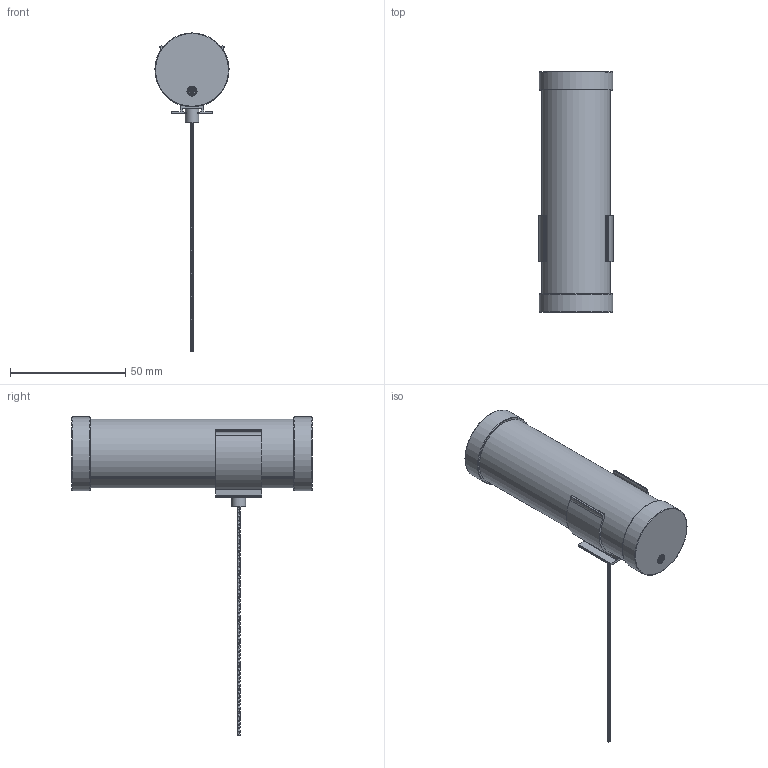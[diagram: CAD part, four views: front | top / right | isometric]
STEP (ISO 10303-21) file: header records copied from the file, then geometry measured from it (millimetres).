
FILE_DESCRIPTION(/* description */ (''),/* implementation_level */ '2;1');
FILE_NAME(/* name */ 'c:\worker\convert-fusion-r02\tmp\job-1\765\output\files\a23acba4-a64b-4692-8419-2e532964d884\d4a8bf33-e11c-47c3-8faf-81937de547a2.stp',/* time_stamp */ '2022-03-30T12:53:36+00:00',/* author */ (''),/* organization */ (''),/* preprocessor_version */ 'ST-DEVELOPER v18.1',/* originating_system */ 'Autodesk Translation Framework v10.14.0.1471',/* authorisation */ '');
FILE_SCHEMA (('AUTOMOTIVE_DESIGN { 1 0 10303 214 3 1 1 }'));
Length unit declared in the file: millimetre
Products named in the file (12): CHAN-3030CIRC; M3x6mm; End Cap w/ Cable Out; LED Strip Light; End Cap; End Cap Screw; Aluminium Profile; Light Diffuser / Lens; Mounting Bracket; Suspension Mount; Suspension Wire; End Cap Screw (1)
Assembly tree (13 placements, depth 2):
  CHAN-3030CIRC
    M3x6mm  x2
    End Cap w/ Cable Out
    LED Strip Light  x2
    End Cap
    End Cap Screw
    Aluminium Profile
    Light Diffuser / Lens
    Mounting Bracket
    Suspension Mount
    Suspension Wire
    End Cap Screw (1)
Bounding box: 32.18 x 104.51 x 138 mm (x, y, z)
Volume: 19666.4 mm3; surface area: 38670 mm2
Topology: 94 solids, 94 shells, 1175 faces, 2581 edges, 1603 vertices
Faces by surface type: plane 474, cylinder 310, bspline 210, torus 80, sphere 80, cone 21
Full cylindrical faces by diameter (mm): 1.4 x2, 1.5 x1, 2 x2, 2.356 x8, 2.927 x14, 3.4 x1, 4 x2, 6 x1, 30 x2, 32 x2
Entity records: 39944 total; most frequent: CARTESIAN_POINT 22079, DIRECTION 3598, ORIENTED_EDGE 3592, EDGE_CURVE 1796, AXIS2_PLACEMENT_3D 1436, VERTEX_POINT 1099, EDGE_LOOP 829, FACE_OUTER_BOUND 813
